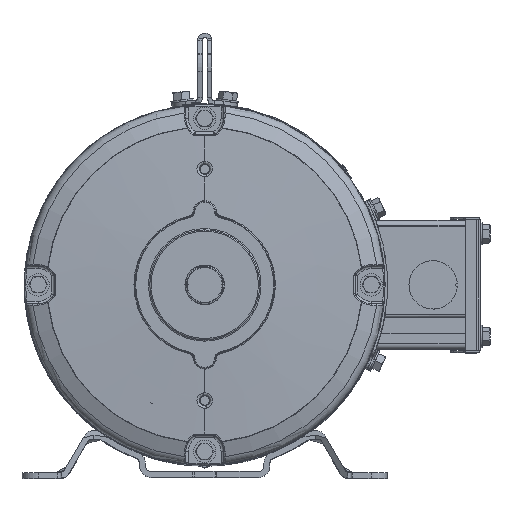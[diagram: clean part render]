
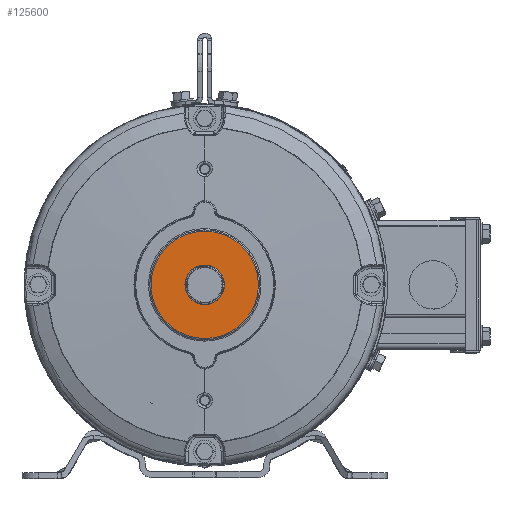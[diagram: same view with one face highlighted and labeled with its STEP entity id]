
A CAD part, top view. The second image highlights one B-rep face of the part: STEP entity #125600.
In plain terms, the highlighted planar face has unit normal (0, 0, 1).
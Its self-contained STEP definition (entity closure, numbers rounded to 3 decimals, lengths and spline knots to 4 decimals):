
#5509 = DIRECTION ( 'NONE',  ( 0., -1., 0. ) ) ;
#18294 = CARTESIAN_POINT ( 'NONE',  ( 0., 0., 5.44 ) ) ;
#22436 = EDGE_CURVE ( 'NONE', #30272, #27787, #135937, .T. ) ;
#26799 = CARTESIAN_POINT ( 'NONE',  ( 0., -1.2479, 5.44 ) ) ;
#27536 = AXIS2_PLACEMENT_3D ( 'NONE', #18294, #103119, #30562 ) ;
#27787 = VERTEX_POINT ( 'NONE', #108613 ) ;
#30272 = VERTEX_POINT ( 'NONE', #129886 ) ;
#30562 = DIRECTION ( 'NONE',  ( 0., 1., 0. ) ) ;
#31773 = CARTESIAN_POINT ( 'NONE',  ( 0., 0., 5.44 ) ) ;
#35756 = AXIS2_PLACEMENT_3D ( 'NONE', #53961, #78451, #5509 ) ;
#38197 = DIRECTION ( 'NONE',  ( 0., 0., 1. ) ) ;
#42862 = CARTESIAN_POINT ( 'NONE',  ( 0., 1.2479, 5.44 ) ) ;
#43995 = DIRECTION ( 'NONE',  ( 0., -1., 0. ) ) ;
#50851 = EDGE_LOOP ( 'NONE', ( #116357, #110252 ) ) ;
#53961 = CARTESIAN_POINT ( 'NONE',  ( 0., 0., 5.44 ) ) ;
#54667 = EDGE_CURVE ( 'NONE', #113508, #122918, #91178, .T. ) ;
#58910 = ORIENTED_EDGE ( 'NONE', *, *, #125657, .F. ) ;
#61321 = AXIS2_PLACEMENT_3D ( 'NONE', #31773, #116257, #43995 ) ;
#63671 = AXIS2_PLACEMENT_3D ( 'NONE', #110588, #38197, #122556 ) ;
#73713 = FACE_OUTER_BOUND ( 'NONE', #50851, .T. ) ;
#74492 = EDGE_CURVE ( 'NONE', #122918, #113508, #97294, .T. ) ;
#77540 = FACE_BOUND ( 'NONE', #150693, .T. ) ;
#78451 = DIRECTION ( 'NONE',  ( 0., 0., -1. ) ) ;
#89216 = AXIS2_PLACEMENT_3D ( 'NONE', #156561, #155549, #155014 ) ;
#91178 = CIRCLE ( 'NONE', #61321, 1.2479 ) ;
#97294 = CIRCLE ( 'NONE', #63671, 1.2479 ) ;
#103119 = DIRECTION ( 'NONE',  ( 0., 0., 1. ) ) ;
#105667 = CIRCLE ( 'NONE', #27536, 0.375 ) ;
#108613 = CARTESIAN_POINT ( 'NONE',  ( 0., -0.375, 5.44 ) ) ;
#110252 = ORIENTED_EDGE ( 'NONE', *, *, #54667, .T. ) ;
#110588 = CARTESIAN_POINT ( 'NONE',  ( 0., 0., 5.44 ) ) ;
#113508 = VERTEX_POINT ( 'NONE', #42862 ) ;
#116257 = DIRECTION ( 'NONE',  ( 0., 0., 1. ) ) ;
#116357 = ORIENTED_EDGE ( 'NONE', *, *, #74492, .T. ) ;
#122556 = DIRECTION ( 'NONE',  ( 0., -1., 0. ) ) ;
#122918 = VERTEX_POINT ( 'NONE', #26799 ) ;
#125600 = ADVANCED_FACE ( 'NONE', ( #77540, #73713 ), #125946, .F. ) ;
#125657 = EDGE_CURVE ( 'NONE', #27787, #30272, #105667, .T. ) ;
#125946 = PLANE ( 'NONE',  #35756 ) ;
#129886 = CARTESIAN_POINT ( 'NONE',  ( 0., 0.375, 5.44 ) ) ;
#135937 = CIRCLE ( 'NONE', #89216, 0.375 ) ;
#140949 = ORIENTED_EDGE ( 'NONE', *, *, #22436, .F. ) ;
#150693 = EDGE_LOOP ( 'NONE', ( #140949, #58910 ) ) ;
#155014 = DIRECTION ( 'NONE',  ( 0., 1., 0. ) ) ;
#155549 = DIRECTION ( 'NONE',  ( 0., 0., 1. ) ) ;
#156561 = CARTESIAN_POINT ( 'NONE',  ( 0., 0., 5.44 ) ) ;
